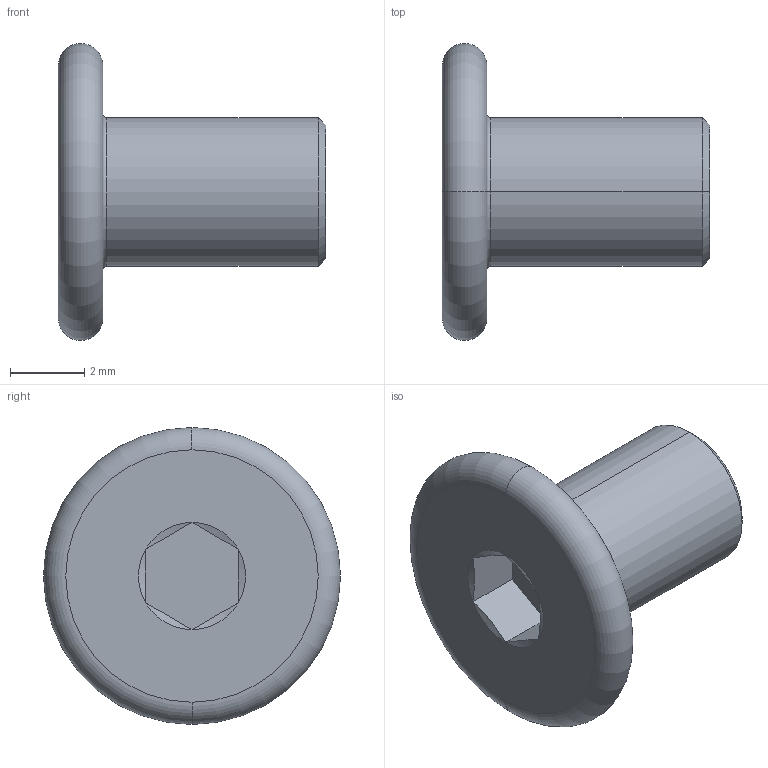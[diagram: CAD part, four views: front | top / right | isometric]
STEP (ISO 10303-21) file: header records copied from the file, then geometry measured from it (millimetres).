
FILE_DESCRIPTION (( 'STEP AP203' ), '1' );
FILE_NAME ('LGD-304M-M4x6.STEP', '2026-08-13T09:59:32', ( '' ), ( '' ), 'SwSTEP 2.0', 'SolidWorks 2020', '' );
FILE_SCHEMA (( 'CONFIG_CONTROL_DESIGN' ));
Length unit declared in the file: millimetre
Products named in the file (1): LGD-304M-M4x6
Bounding box: 7.2 x 8 x 8 mm (x, y, z)
Volume: 123.6 mm3; surface area: 203.4 mm2
Topology: 1 solids, 1 shells, 24 faces, 44 edges, 24 vertices
Faces by surface type: plane 10, cone 8, torus 4, cylinder 2
Entity records: 673 total; most frequent: CARTESIAN_POINT 119, DIRECTION 110, ORIENTED_EDGE 88, AXIS2_PLACEMENT_3D 47, EDGE_CURVE 44, EDGE_LOOP 26, FACE_OUTER_BOUND 24, VERTEX_POINT 24
